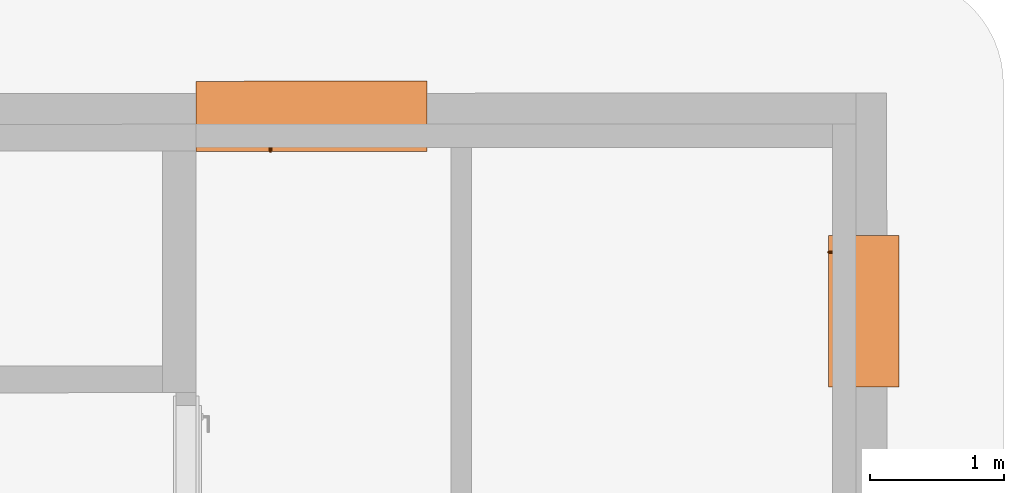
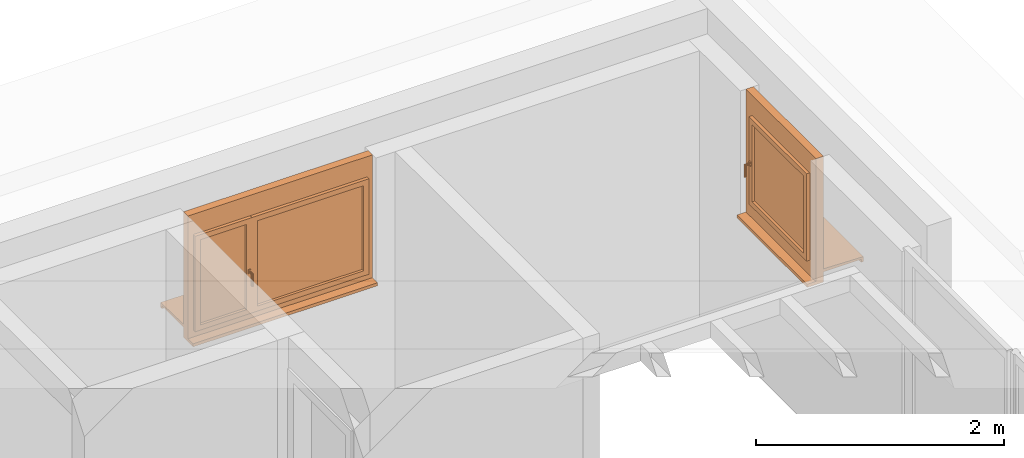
# One storey, part 7 of 7: 2 proxies.
"""IFC2X3 building model written with IfcOpenShell, lengths in metres."""

from ifc_helpers import new_model, entity, si_unit, converted_unit, derived_unit, direction, frame, origin, origin_with_axes, place, context, subcontext, project, spatial, closed_shell, open_shell, surface_model, source, transform, mapped, element, save


model = new_model("IFC2X3")

# Units and contexts
model_context = context("Model", 3, precision=1e-05, world=origin(), true_north=direction((0.772621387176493, -0.634867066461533)))
body_context = subcontext(model_context, "Body", "Model", "MODEL_VIEW")
ifc_project = project(units=[si_unit("LENGTHUNIT", "METRE"), si_unit("AREAUNIT", "SQUARE_METRE"), si_unit("VOLUMEUNIT", "CUBIC_METRE"), si_unit("MASSUNIT", "GRAM", prefix="KILO"), converted_unit("PLANEANGLEUNIT", "DEGREE", entity("IfcPlaneAngleMeasure", 0.0174532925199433), si_unit("PLANEANGLEUNIT", "RADIAN"), dimensions=[0, 0, 0, 0, 0, 0, 0]), derived_unit("THERMALTRANSMITTANCEUNIT", [(si_unit("POWERUNIT", "WATT"), 1), (si_unit("THERMODYNAMICTEMPERATUREUNIT", "KELVIN"), -1), (si_unit("LENGTHUNIT", "METRE"), -2)]), derived_unit("VOLUMETRICFLOWRATEUNIT", [(si_unit("LENGTHUNIT", "METRE"), 3), (converted_unit("TIMEUNIT", "hour", entity("IfcTimeMeasure", 3600.0), si_unit("TIMEUNIT", "SECOND"), dimensions=[0, 0, 1, 0, 0, 0, 0]), -1), (si_unit("LENGTHUNIT", "METRE"), -1)])], contexts=[model_context])

# Site, building, storey
site_placement = place(None, origin())
site = spatial("IfcSite", under=ifc_project, at=site_placement, Name="Modelle auf dem Nullpunkt", CompositionType="ELEMENT")
building_placement = place(site_placement, origin())
building = spatial("IfcBuilding", under=site, at=building_placement, Name="I", CompositionType="ELEMENT")
storey_placement = place(building_placement, origin())
storey = spatial("IfcBuildingStorey", under=building, at=storey_placement, Name="3.OG", CompositionType="ELEMENT", Elevation=0.0)

# Proxies
shared_shape_1 = source(origin_with_axes(), body_context, "Body", "SurfaceModel", [
    surface_model("IfcShellBasedSurfaceModel", [(0.0, 0.020000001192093, 0.1), (0.0, 0.372500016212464, 0.1), (0.0, 0.372500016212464, 0.13), (0.0, 0.0, 0.12), (0.0, 0.0, 0.07), (0.0, 0.020000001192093, 0.07), (1.72000000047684, 0.372500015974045, 0.1), (1.72000000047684, 0.020000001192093, 0.1), (1.72000000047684, 0.020000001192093, 0.07), (1.72000000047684, 0.0, 0.07), (1.72000000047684, 0.0, 0.12), (1.72000000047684, 0.372500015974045, 0.13)], [closed_shell([[[0, 1, 2, 3, 4, 5]], [[6, 7, 8, 9, 10, 11]], [[1, 0, 7, 6]], [[2, 1, 6, 11]], [[3, 2, 11, 10]], [[4, 3, 10, 9]], [[5, 4, 9, 8]], [[0, 5, 8, 7]]], orient=[[False], [False], [False], [False], [False], [False], [False], [False]])]),
    surface_model("IfcShellBasedSurfaceModel", [(0.0, 0.525000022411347, 0.0), (0.0, 0.525000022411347, 0.03), (0.0, 0.412500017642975, 0.03), (0.0, 0.412500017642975, 0.0), (1.72000000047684, 0.412500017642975, 0.0), (1.72000000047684, 0.412500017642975, 0.03), (1.72000000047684, 0.525000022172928, 0.03), (1.72000000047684, 0.525000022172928, 0.0)], [closed_shell([[[0, 1, 2, 3]], [[4, 5, 6, 7]], [[3, 4, 7, 0]], [[2, 5, 4, 3]], [[1, 6, 5, 2]], [[0, 7, 6, 1]]], orient=[[False], [False], [False], [False], [False], [False]])]),
    surface_model("IfcShellBasedSurfaceModel", [(0.0, 0.442500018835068, 1.24), (0.0, 0.442500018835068, 0.0), (0.07, 0.442500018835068, 0.0), (0.07, 0.442500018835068, 1.24), (0.0, 0.372500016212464, 0.0), (0.0, 0.372500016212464, 1.24), (0.07, 0.372500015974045, 1.24), (0.07, 0.372500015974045, 0.0)], [closed_shell([[[0, 1, 2, 3]], [[4, 5, 6, 7]], [[1, 0, 5, 4]], [[2, 1, 4, 7]], [[3, 2, 7, 6]], [[0, 3, 6, 5]]], orient=[[False], [False], [False], [False], [False], [False]])]),
    surface_model("IfcShellBasedSurfaceModel", [(1.65000000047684, 0.442500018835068, 1.24), (1.65000000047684, 0.442500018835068, 0.0), (1.72000000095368, 0.442500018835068, 0.0), (1.72000000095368, 0.442500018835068, 1.24), (1.65000000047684, 0.372500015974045, 0.0), (1.65000000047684, 0.372500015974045, 1.24), (1.72000000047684, 0.372500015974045, 1.24), (1.72000000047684, 0.372500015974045, 0.0)], [closed_shell([[[0, 1, 2, 3]], [[4, 5, 6, 7]], [[1, 0, 5, 4]], [[2, 1, 4, 7]], [[3, 2, 7, 6]], [[0, 3, 6, 5]]], orient=[[False], [False], [False], [False], [False], [False]])]),
    surface_model("IfcShellBasedSurfaceModel", [(0.07, 0.442500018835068, 0.12), (0.07, 0.442500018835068, 0.0), (1.65000000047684, 0.442500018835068, 0.0), (1.65000000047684, 0.442500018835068, 0.12), (0.07, 0.372500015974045, 0.0), (0.07, 0.372500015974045, 0.12), (1.65000000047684, 0.372500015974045, 0.12), (1.65000000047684, 0.372500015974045, 0.0)], [closed_shell([[[0, 1, 2, 3]], [[4, 5, 6, 7]], [[1, 0, 5, 4]], [[2, 1, 4, 7]], [[3, 2, 7, 6]], [[0, 3, 6, 5]]], orient=[[False], [False], [False], [False], [False], [False]])]),
    surface_model("IfcShellBasedSurfaceModel", [(0.07, 0.442500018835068, 1.24), (0.07, 0.442500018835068, 1.02), (1.65000000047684, 0.442500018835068, 1.02), (1.65000000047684, 0.442500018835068, 1.24), (0.07, 0.372500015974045, 1.02), (0.07, 0.372500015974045, 1.24), (1.65000000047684, 0.372500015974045, 1.24), (1.65000000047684, 0.372500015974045, 1.02)], [closed_shell([[[0, 1, 2, 3]], [[4, 5, 6, 7]], [[1, 0, 5, 4]], [[2, 1, 4, 7]], [[3, 2, 7, 6]], [[0, 3, 6, 5]]], orient=[[False], [False], [False], [False], [False], [False]])]),
    surface_model("IfcShellBasedSurfaceModel", [(0.05, 0.472500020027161, 1.04), (0.05, 0.472500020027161, 0.1), (0.1, 0.472500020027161, 0.1), (0.1, 0.472500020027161, 1.04), (0.0500000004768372, 0.422500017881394, 0.1), (0.0500000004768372, 0.422500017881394, 1.04), (0.1, 0.422500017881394, 1.04), (0.1, 0.422500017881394, 0.1)], [closed_shell([[[0, 1, 2, 3]], [[4, 5, 6, 7]], [[1, 0, 5, 4]], [[2, 1, 4, 7]], [[3, 2, 7, 6]], [[0, 3, 6, 5]]], orient=[[False], [False], [False], [False], [False], [False]])]),
    surface_model("IfcShellBasedSurfaceModel", [(1.0898225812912, 0.472500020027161, 1.04), (1.0898225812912, 0.472500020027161, 0.1), (1.1398225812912, 0.472500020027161, 0.1), (1.1398225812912, 0.472500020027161, 1.04), (1.0898225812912, 0.422500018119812, 0.1), (1.0898225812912, 0.422500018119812, 1.04), (1.13982258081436, 0.422500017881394, 1.04), (1.13982258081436, 0.422500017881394, 0.1)], [closed_shell([[[0, 1, 2, 3]], [[4, 5, 6, 7]], [[1, 0, 5, 4]], [[2, 1, 4, 7]], [[3, 2, 7, 6]], [[0, 3, 6, 5]]], orient=[[False], [False], [False], [False], [False], [False]])]),
    surface_model("IfcShellBasedSurfaceModel", [(0.1, 0.472500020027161, 0.15), (0.1, 0.472500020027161, 0.1), (1.0898225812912, 0.472500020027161, 0.1), (1.0898225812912, 0.472500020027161, 0.15), (0.1, 0.422500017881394, 0.1), (0.1, 0.422500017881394, 0.15), (1.0898225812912, 0.422500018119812, 0.15), (1.0898225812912, 0.422500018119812, 0.1)], [closed_shell([[[0, 1, 2, 3]], [[4, 5, 6, 7]], [[1, 0, 5, 4]], [[2, 1, 4, 7]], [[3, 2, 7, 6]], [[0, 3, 6, 5]]], orient=[[False], [False], [False], [False], [False], [False]])]),
    surface_model("IfcShellBasedSurfaceModel", [(0.1, 0.472500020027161, 1.04), (0.1, 0.472500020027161, 0.99), (1.0898225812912, 0.472500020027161, 0.99), (1.0898225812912, 0.472500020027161, 1.04), (0.1, 0.422500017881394, 0.99), (0.1, 0.422500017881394, 1.04), (1.0898225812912, 0.422500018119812, 1.04), (1.0898225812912, 0.422500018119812, 0.99)], [closed_shell([[[0, 1, 2, 3]], [[4, 5, 6, 7]], [[1, 0, 5, 4]], [[2, 1, 4, 7]], [[3, 2, 7, 6]], [[0, 3, 6, 5]]], orient=[[False], [False], [False], [False], [False], [False]])]),
    surface_model("IfcShellBasedSurfaceModel", [(1.11482258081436, 0.422500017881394, 1.02), (1.11482258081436, 0.422500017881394, 0.12), (1.1648225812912, 0.422500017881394, 0.12), (1.1648225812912, 0.422500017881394, 1.02), (1.11482258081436, 0.397500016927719, 0.12), (1.11482258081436, 0.397500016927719, 1.02), (1.1648225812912, 0.397500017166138, 1.02), (1.1648225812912, 0.397500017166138, 0.12)], [closed_shell([[[0, 1, 2, 3]], [[4, 5, 6, 7]], [[1, 0, 5, 4]], [[2, 1, 4, 7]], [[3, 2, 7, 6]], [[0, 3, 6, 5]]], orient=[[False], [False], [False], [False], [False], [False]])]),
    surface_model("IfcShellBasedSurfaceModel", [(1.1408225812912, 0.472500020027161, 1.04), (1.1408225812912, 0.472500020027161, 0.1), (1.19082258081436, 0.472500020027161, 0.1), (1.19082258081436, 0.472500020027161, 1.04), (1.1408225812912, 0.422500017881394, 0.1), (1.1408225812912, 0.422500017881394, 1.04), (1.1908225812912, 0.422500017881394, 1.04), (1.1908225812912, 0.422500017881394, 0.1)], [closed_shell([[[0, 1, 2, 3]], [[4, 5, 6, 7]], [[1, 0, 5, 4]], [[2, 1, 4, 7]], [[3, 2, 7, 6]], [[0, 3, 6, 5]]], orient=[[False], [False], [False], [False], [False], [False]])]),
    surface_model("IfcShellBasedSurfaceModel", [(1.62000000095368, 0.472500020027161, 1.04), (1.62000000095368, 0.472500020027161, 0.1), (1.67000000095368, 0.472500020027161, 0.1), (1.67000000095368, 0.472500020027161, 1.04), (1.62000000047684, 0.422500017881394, 0.1), (1.62000000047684, 0.422500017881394, 1.04), (1.67000000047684, 0.422500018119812, 1.04), (1.67000000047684, 0.422500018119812, 0.1)], [closed_shell([[[0, 1, 2, 3]], [[4, 5, 6, 7]], [[1, 0, 5, 4]], [[2, 1, 4, 7]], [[3, 2, 7, 6]], [[0, 3, 6, 5]]], orient=[[False], [False], [False], [False], [False], [False]])]),
    surface_model("IfcShellBasedSurfaceModel", [(1.19082258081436, 0.472500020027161, 0.15), (1.19082258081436, 0.472500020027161, 0.1), (1.62000000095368, 0.472500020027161, 0.1), (1.62000000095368, 0.472500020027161, 0.15), (1.1908225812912, 0.422500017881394, 0.1), (1.1908225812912, 0.422500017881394, 0.15), (1.62000000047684, 0.422500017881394, 0.15), (1.62000000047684, 0.422500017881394, 0.1)], [closed_shell([[[0, 1, 2, 3]], [[4, 5, 6, 7]], [[1, 0, 5, 4]], [[2, 1, 4, 7]], [[3, 2, 7, 6]], [[0, 3, 6, 5]]], orient=[[False], [False], [False], [False], [False], [False]])]),
    surface_model("IfcShellBasedSurfaceModel", [(1.19082258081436, 0.472500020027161, 1.04), (1.19082258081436, 0.472500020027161, 0.99), (1.62000000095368, 0.472500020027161, 0.99), (1.62000000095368, 0.472500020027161, 1.04), (1.1908225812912, 0.422500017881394, 0.99), (1.1908225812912, 0.422500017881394, 1.04), (1.62000000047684, 0.422500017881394, 1.04), (1.62000000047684, 0.422500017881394, 0.99)], [closed_shell([[[0, 1, 2, 3]], [[4, 5, 6, 7]], [[1, 0, 5, 4]], [[2, 1, 4, 7]], [[3, 2, 7, 6]], [[0, 3, 6, 5]]], orient=[[False], [False], [False], [False], [False], [False]])]),
    surface_model("IfcShellBasedSurfaceModel", [(1.15332258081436, 0.472500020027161, 0.54), (1.1783225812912, 0.472500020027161, 0.54), (1.1783225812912, 0.472500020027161, 0.5), (1.15332258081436, 0.472500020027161, 0.5), (1.15332258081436, 0.482500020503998, 0.5), (1.1783225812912, 0.482500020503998, 0.5), (1.1783225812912, 0.482500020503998, 0.54), (1.15332258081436, 0.482500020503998, 0.54)], [closed_shell([[[0, 1, 2, 3]], [[4, 5, 6, 7]], [[3, 4, 7, 0]], [[2, 5, 4, 3]], [[1, 6, 5, 2]], [[0, 7, 6, 1]]], orient=[[False], [False], [False], [False], [False], [False]])]),
    surface_model("IfcShellBasedSurfaceModel", [(1.17582258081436, 0.482500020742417, 0.52), (1.17448283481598, 0.482500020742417, 0.515), (1.1708225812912, 0.482500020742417, 0.511339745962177), (1.1658225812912, 0.482500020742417, 0.51), (1.16082258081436, 0.482500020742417, 0.511339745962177), (1.15716232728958, 0.482500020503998, 0.515), (1.1558225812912, 0.482500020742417, 0.52), (1.15716232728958, 0.482500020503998, 0.525), (1.16082258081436, 0.482500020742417, 0.528660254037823), (1.1658225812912, 0.482500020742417, 0.53), (1.1708225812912, 0.482500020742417, 0.528660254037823), (1.17448283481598, 0.482500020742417, 0.525), (1.17448283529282, 0.527500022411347, 0.525), (1.17582258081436, 0.522500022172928, 0.52), (1.1708225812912, 0.531160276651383, 0.528660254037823), (1.1658225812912, 0.532500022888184, 0.53), (1.16082258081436, 0.531160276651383, 0.528660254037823), (1.15716232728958, 0.527500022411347, 0.525), (1.1558225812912, 0.522500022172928, 0.52), (1.15716232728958, 0.517500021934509, 0.515), (1.1608225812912, 0.513839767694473, 0.511339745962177), (1.1658225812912, 0.512500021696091, 0.51), (1.1708225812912, 0.513839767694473, 0.511339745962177), (1.17448283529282, 0.517500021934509, 0.515), (1.17582258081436, 0.522500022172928, 0.405), (1.17448283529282, 0.527500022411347, 0.405), (1.1708225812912, 0.531160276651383, 0.405), (1.1658225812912, 0.532500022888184, 0.405), (1.16082258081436, 0.531160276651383, 0.405), (1.15716232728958, 0.527500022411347, 0.405), (1.1558225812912, 0.522500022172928, 0.405), (1.15716232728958, 0.517500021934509, 0.405), (1.1608225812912, 0.513839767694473, 0.405), (1.1658225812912, 0.512500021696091, 0.405), (1.1708225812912, 0.513839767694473, 0.405), (1.17448283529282, 0.517500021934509, 0.405)], [closed_shell([[[0, 1, 2, 3, 4, 5, 6, 7, 8, 9, 10, 11]], [[0, 11, 12, 13]], [[11, 10, 14, 12]], [[10, 9, 15, 14]], [[9, 8, 16, 15]], [[8, 7, 17, 16]], [[7, 6, 18, 17]], [[6, 5, 19, 18]], [[5, 4, 20, 19]], [[4, 3, 21, 20]], [[3, 2, 22, 21]], [[2, 1, 23, 22]], [[1, 0, 13, 23]], [[24, 25, 26, 27, 28, 29, 30, 31, 32, 33, 34, 35]], [[13, 12, 25, 24]], [[12, 14, 26, 25]], [[14, 15, 27, 26]], [[15, 16, 28, 27]], [[16, 17, 29, 28]], [[17, 18, 30, 29]], [[18, 19, 31, 30]], [[19, 20, 32, 31]], [[20, 21, 33, 32]], [[21, 22, 34, 33]], [[22, 23, 35, 34]], [[23, 13, 24, 35]]], orient=[[False], [False], [False], [False], [False], [False], [False], [False], [False], [False], [False], [False], [False], [False], [False], [False], [False], [False], [False], [False], [False], [False], [False], [False], [False], [False]])]),
    surface_model("IfcShellBasedSurfaceModel", [(0.100000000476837, 0.447500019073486, 0.15), (1.0898225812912, 0.447500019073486, 0.15), (1.0898225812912, 0.447500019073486, 0.99), (0.100000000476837, 0.447500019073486, 0.99)], [open_shell([[[0, 1, 2, 3]]], orient=[[False]])]),
    surface_model("IfcShellBasedSurfaceModel", [(1.19082258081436, 0.447500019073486, 0.15), (1.62000000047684, 0.447500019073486, 0.15), (1.62000000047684, 0.447500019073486, 0.99), (1.19082258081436, 0.447500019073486, 0.99)], [open_shell([[[0, 1, 2, 3]]], orient=[[False]])]),
])
proxy_1_placement = place(storey_placement, frame((37.8318341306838, 2.45960631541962, 445.99), z_axis=(0.0, 0.0, 1.0), x_axis=(-0.999999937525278, -0.000353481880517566, 0.0)))
element("IfcBuildingElementProxy", 1, at=proxy_1_placement, inside=storey, Name="2flg Weiß Stulp", context=body_context, shape_type="MappedRepresentation", body=[
    mapped(shared_shape_1, transform((0.0, 0.0, 0.0), x_axis=(1.0, 0.0, 0.0), y_axis=(0.0, 1.0, 0.0), z_axis=(0.0, 0.0, 1.0), scale=1.0)),
])
shared_shape_2 = source(origin_with_axes(), body_context, "Body", "SurfaceModel", [
    surface_model("IfcShellBasedSurfaceModel", [(1.13000000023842, 0.020000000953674, 0.1), (1.13000000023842, 0.020000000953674, 0.07), (1.13000000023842, 0.0, 0.07), (1.13000000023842, 0.0, 0.12), (1.13000000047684, 0.372500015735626, 0.13), (1.13000000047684, 0.372500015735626, 0.1), (0.0, 0.372500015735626, 0.1), (0.0, 0.372500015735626, 0.13), (0.0, 0.0, 0.12), (0.0, 0.0, 0.07), (0.0, 0.020000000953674, 0.07), (0.0, 0.020000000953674, 0.1)], [closed_shell([[[0, 1, 2, 3, 4, 5]], [[6, 7, 8, 9, 10, 11]], [[5, 6, 11, 0]], [[4, 7, 6, 5]], [[3, 8, 7, 4]], [[2, 9, 8, 3]], [[1, 10, 9, 2]], [[0, 11, 10, 1]]], orient=[[False], [False], [False], [False], [False], [False], [False], [False]])]),
    surface_model("IfcShellBasedSurfaceModel", [(1.13000000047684, 0.525000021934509, 0.0), (1.13000000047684, 0.412500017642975, 0.0), (1.13000000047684, 0.412500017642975, 0.03), (1.13000000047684, 0.525000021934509, 0.03), (0.0, 0.412500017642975, 0.0), (0.0, 0.525000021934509, 0.0), (0.0, 0.525000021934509, 0.03), (0.0, 0.412500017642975, 0.03)], [closed_shell([[[0, 1, 2, 3]], [[4, 5, 6, 7]], [[1, 0, 5, 4]], [[2, 1, 4, 7]], [[3, 2, 7, 6]], [[0, 3, 6, 5]]], orient=[[False], [False], [False], [False], [False], [False]])]),
    surface_model("IfcShellBasedSurfaceModel", [(1.13000000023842, 0.442500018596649, 1.24), (1.01000000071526, 0.442500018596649, 1.24), (1.01000000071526, 0.442500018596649, 0.0), (1.13000000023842, 0.442500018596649, 0.0), (1.13000000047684, 0.372500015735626, 0.0), (1.01000000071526, 0.372500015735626, 0.0), (1.01000000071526, 0.372500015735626, 1.24), (1.13000000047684, 0.372500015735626, 1.24)], [closed_shell([[[0, 1, 2, 3]], [[4, 5, 6, 7]], [[3, 4, 7, 0]], [[2, 5, 4, 3]], [[1, 6, 5, 2]], [[0, 7, 6, 1]]], orient=[[False], [False], [False], [False], [False], [False]])]),
    surface_model("IfcShellBasedSurfaceModel", [(0.12, 0.442500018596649, 1.24), (0.0, 0.442500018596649, 1.24), (0.0, 0.442500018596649, 0.0), (0.12, 0.442500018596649, 0.0), (0.12, 0.372500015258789, 0.0), (0.0, 0.372500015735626, 0.0), (0.0, 0.372500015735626, 1.24), (0.12, 0.372500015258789, 1.24)], [closed_shell([[[0, 1, 2, 3]], [[4, 5, 6, 7]], [[3, 4, 7, 0]], [[2, 5, 4, 3]], [[1, 6, 5, 2]], [[0, 7, 6, 1]]], orient=[[False], [False], [False], [False], [False], [False]])]),
    surface_model("IfcShellBasedSurfaceModel", [(1.01000000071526, 0.442500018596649, 0.2), (0.12, 0.442500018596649, 0.2), (0.12, 0.442500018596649, 0.0), (1.01000000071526, 0.442500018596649, 0.0), (1.01000000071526, 0.372500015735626, 0.0), (0.12, 0.372500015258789, 0.0), (0.12, 0.372500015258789, 0.2), (1.01000000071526, 0.372500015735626, 0.2)], [closed_shell([[[0, 1, 2, 3]], [[4, 5, 6, 7]], [[3, 4, 7, 0]], [[2, 5, 4, 3]], [[1, 6, 5, 2]], [[0, 7, 6, 1]]], orient=[[False], [False], [False], [False], [False], [False]])]),
    surface_model("IfcShellBasedSurfaceModel", [(1.01000000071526, 0.442500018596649, 1.24), (0.12, 0.442500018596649, 1.24), (0.12, 0.442500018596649, 1.02), (1.01000000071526, 0.442500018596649, 1.02), (1.01000000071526, 0.372500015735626, 1.02), (0.12, 0.372500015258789, 1.02), (0.12, 0.372500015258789, 1.24), (1.01000000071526, 0.372500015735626, 1.24)], [closed_shell([[[0, 1, 2, 3]], [[4, 5, 6, 7]], [[3, 4, 7, 0]], [[2, 5, 4, 3]], [[1, 6, 5, 2]], [[0, 7, 6, 1]]], orient=[[False], [False], [False], [False], [False], [False]])]),
    surface_model("IfcShellBasedSurfaceModel", [(1.03000000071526, 0.472500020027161, 1.04), (0.980000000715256, 0.472500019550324, 1.04), (0.980000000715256, 0.472500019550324, 0.18), (1.03000000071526, 0.472500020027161, 0.18), (1.03000000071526, 0.422500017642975, 0.18), (0.980000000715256, 0.422500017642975, 0.18), (0.980000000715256, 0.422500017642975, 1.04), (1.03000000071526, 0.422500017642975, 1.04)], [closed_shell([[[0, 1, 2, 3]], [[4, 5, 6, 7]], [[3, 4, 7, 0]], [[2, 5, 4, 3]], [[1, 6, 5, 2]], [[0, 7, 6, 1]]], orient=[[False], [False], [False], [False], [False], [False]])]),
    surface_model("IfcShellBasedSurfaceModel", [(0.149999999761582, 0.472500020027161, 1.04), (0.0999999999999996, 0.472500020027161, 1.04), (0.0999999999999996, 0.472500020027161, 0.18), (0.149999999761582, 0.472500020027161, 0.18), (0.149999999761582, 0.422500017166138, 0.18), (0.0999999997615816, 0.422500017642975, 0.18), (0.0999999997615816, 0.422500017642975, 1.04), (0.149999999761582, 0.422500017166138, 1.04)], [closed_shell([[[0, 1, 2, 3]], [[4, 5, 6, 7]], [[3, 4, 7, 0]], [[2, 5, 4, 3]], [[1, 6, 5, 2]], [[0, 7, 6, 1]]], orient=[[False], [False], [False], [False], [False], [False]])]),
    surface_model("IfcShellBasedSurfaceModel", [(0.980000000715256, 0.472500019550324, 0.23), (0.149999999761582, 0.472500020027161, 0.23), (0.149999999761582, 0.472500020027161, 0.18), (0.980000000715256, 0.472500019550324, 0.18), (0.980000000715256, 0.422500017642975, 0.18), (0.149999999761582, 0.422500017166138, 0.18), (0.149999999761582, 0.422500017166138, 0.23), (0.980000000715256, 0.422500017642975, 0.23)], [closed_shell([[[0, 1, 2, 3]], [[4, 5, 6, 7]], [[3, 4, 7, 0]], [[2, 5, 4, 3]], [[1, 6, 5, 2]], [[0, 7, 6, 1]]], orient=[[False], [False], [False], [False], [False], [False]])]),
    surface_model("IfcShellBasedSurfaceModel", [(0.980000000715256, 0.472500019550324, 1.04), (0.149999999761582, 0.472500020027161, 1.04), (0.149999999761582, 0.472500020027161, 0.99), (0.980000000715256, 0.472500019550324, 0.99), (0.980000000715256, 0.422500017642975, 0.99), (0.149999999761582, 0.422500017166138, 0.99), (0.149999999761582, 0.422500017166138, 1.04), (0.980000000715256, 0.422500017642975, 1.04)], [closed_shell([[[0, 1, 2, 3]], [[4, 5, 6, 7]], [[3, 4, 7, 0]], [[2, 5, 4, 3]], [[1, 6, 5, 2]], [[0, 7, 6, 1]]], orient=[[False], [False], [False], [False], [False], [False]])]),
    surface_model("IfcShellBasedSurfaceModel", [(1.01750000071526, 0.472500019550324, 0.615), (1.01750000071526, 0.472500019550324, 0.575), (0.992500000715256, 0.472500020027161, 0.575), (0.992500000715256, 0.472500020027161, 0.615), (1.01750000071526, 0.482500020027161, 0.575), (1.01750000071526, 0.482500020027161, 0.615), (0.992500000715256, 0.482500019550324, 0.615), (0.992500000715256, 0.482500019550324, 0.575)], [closed_shell([[[0, 1, 2, 3]], [[4, 5, 6, 7]], [[1, 0, 5, 4]], [[2, 1, 4, 7]], [[3, 2, 7, 6]], [[0, 3, 6, 5]]], orient=[[False], [False], [False], [False], [False], [False]])]),
    surface_model("IfcShellBasedSurfaceModel", [(0.995000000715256, 0.482500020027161, 0.595), (0.996339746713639, 0.482500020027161, 0.6), (1.00000000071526, 0.482500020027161, 0.603660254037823), (1.00500000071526, 0.482500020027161, 0.605), (1.01000000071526, 0.482500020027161, 0.603660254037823), (1.01366025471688, 0.482500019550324, 0.6), (1.01500000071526, 0.482500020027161, 0.595), (1.01366025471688, 0.482500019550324, 0.59), (1.01000000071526, 0.482500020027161, 0.586339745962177), (1.00500000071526, 0.482500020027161, 0.585), (1.00000000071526, 0.482500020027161, 0.586339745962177), (0.996339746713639, 0.482500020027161, 0.59), (0.995000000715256, 0.522500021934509, 0.595), (0.99633974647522, 0.527500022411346, 0.6), (1.00000000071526, 0.531160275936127, 0.603660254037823), (1.00500000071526, 0.532500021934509, 0.605), (1.01000000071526, 0.531160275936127, 0.603660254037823), (1.01366025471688, 0.527500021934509, 0.6), (1.01500000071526, 0.522500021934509, 0.595), (1.01366025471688, 0.517500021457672, 0.59), (1.01000000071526, 0.513839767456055, 0.586339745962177), (1.00500000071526, 0.512500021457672, 0.585), (1.00000000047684, 0.513839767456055, 0.586339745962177), (0.99633974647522, 0.517500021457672, 0.59), (0.995000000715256, 0.522500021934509, 0.48), (0.99633974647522, 0.517500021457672, 0.48), (1.00000000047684, 0.513839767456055, 0.48), (1.00500000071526, 0.512500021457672, 0.48), (1.01000000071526, 0.513839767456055, 0.48), (1.01366025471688, 0.517500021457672, 0.48), (1.01500000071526, 0.522500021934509, 0.48), (1.01366025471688, 0.527500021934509, 0.48), (1.01000000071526, 0.531160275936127, 0.48), (1.00500000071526, 0.532500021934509, 0.48), (1.00000000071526, 0.531160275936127, 0.48), (0.99633974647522, 0.527500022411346, 0.48)], [closed_shell([[[0, 1, 2, 3, 4, 5, 6, 7, 8, 9, 10, 11]], [[0, 12, 13, 1]], [[1, 13, 14, 2]], [[2, 14, 15, 3]], [[3, 15, 16, 4]], [[4, 16, 17, 5]], [[5, 17, 18, 6]], [[6, 18, 19, 7]], [[7, 19, 20, 8]], [[8, 20, 21, 9]], [[9, 21, 22, 10]], [[10, 22, 23, 11]], [[11, 23, 12, 0]], [[24, 25, 26, 27, 28, 29, 30, 31, 32, 33, 34, 35]], [[12, 24, 35, 13]], [[13, 35, 34, 14]], [[14, 34, 33, 15]], [[15, 33, 32, 16]], [[16, 32, 31, 17]], [[17, 31, 30, 18]], [[18, 30, 29, 19]], [[19, 29, 28, 20]], [[20, 28, 27, 21]], [[21, 27, 26, 22]], [[22, 26, 25, 23]], [[23, 25, 24, 12]]], orient=[[False], [False], [False], [False], [False], [False], [False], [False], [False], [False], [False], [False], [False], [False], [False], [False], [False], [False], [False], [False], [False], [False], [False], [False], [False], [False]])]),
    surface_model("IfcShellBasedSurfaceModel", [(0.980000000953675, 0.447500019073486, 0.23), (0.980000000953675, 0.447500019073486, 0.99), (0.15, 0.447500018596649, 0.99), (0.15, 0.447500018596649, 0.23)], [open_shell([[[0, 1, 2, 3]]], orient=[[False]])]),
])
proxy_2_placement = place(storey_placement, frame((41.347639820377, 0.180848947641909, 445.99), z_axis=(0.0, 0.0, 1.0), x_axis=(-0.000353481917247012, 0.999999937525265, 0.0)))
element("IfcBuildingElementProxy", 2, at=proxy_2_placement, inside=storey, Name="2flg Weiß Stulp", context=body_context, shape_type="MappedRepresentation", body=[
    mapped(shared_shape_2, transform((0.0, 0.0, 0.0), x_axis=(1.0, 0.0, 0.0), y_axis=(0.0, 1.0, 0.0), z_axis=(0.0, 0.0, 1.0), scale=1.0)),
])

save(model, "model.ifc")
